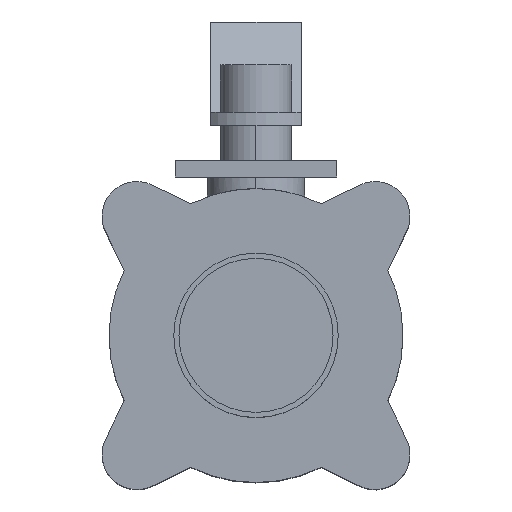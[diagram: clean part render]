
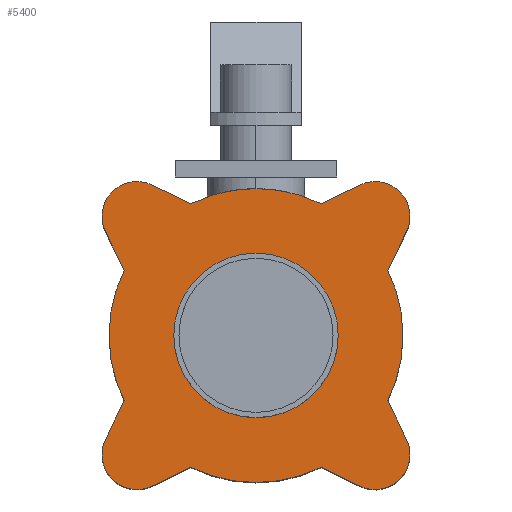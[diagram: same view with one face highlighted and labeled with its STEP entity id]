
A CAD part, top view. The second image highlights one B-rep face of the part: STEP entity #5400.
In plain terms, the highlighted planar face has unit normal (0, 0, 1) as drawn and (-1, 0, 0) by its records, which use the part's own axes.
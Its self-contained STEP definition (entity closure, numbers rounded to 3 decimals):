
#950=CARTESIAN_POINT('',(-75.5,0.,0.));
#960=DIRECTION('',(-1.,0.,0.));
#970=DIRECTION('',(0.,0.,1.));
#980=AXIS2_PLACEMENT_3D('',#950,#960,#970);
#990=CIRCLE('',#980,45.4);
#1000=CARTESIAN_POINT('',(-75.5,14.515,43.017));
#1010=VERTEX_POINT('',#1000);
#1020=CARTESIAN_POINT('',(-75.5,43.017,14.515));
#1030=VERTEX_POINT('',#1020);
#1040=EDGE_CURVE('',#1010,#1030,#990,.T.);
#1780=CARTESIAN_POINT('',(-75.5,14.515,43.017));
#1790=DIRECTION('',(0.,0.326,-0.946));
#1800=VECTOR('',#1790,1.);
#1810=LINE('',#1780,#1800);
#1820=CARTESIAN_POINT('',(-75.5,10.212,55.516));
#1830=VERTEX_POINT('',#1820);
#1840=EDGE_CURVE('',#1830,#1010,#1810,.T.);
#2090=CARTESIAN_POINT('',(-75.5,-43.017,14.515));
#2100=DIRECTION('',(0.,0.946,0.326));
#2110=VECTOR('',#2100,1.);
#2120=LINE('',#2090,#2110);
#2130=CARTESIAN_POINT('',(-75.5,-55.516,10.212));
#2140=VERTEX_POINT('',#2130);
#2150=CARTESIAN_POINT('',(-75.5,-43.017,14.515));
#2160=VERTEX_POINT('',#2150);
#2170=EDGE_CURVE('',#2140,#2160,#2120,.T.);
#2940=CARTESIAN_POINT('',(-75.5,-43.017,-14.515));
#2950=VERTEX_POINT('',#2940);
#2980=CARTESIAN_POINT('',(-75.5,-55.516,-10.212));
#2990=DIRECTION('',(0.,0.946,-0.326));
#3000=VECTOR('',#2990,1.);
#3010=LINE('',#2980,#3000);
#3020=CARTESIAN_POINT('',(-75.5,-55.516,-10.212));
#3030=VERTEX_POINT('',#3020);
#3040=EDGE_CURVE('',#3030,#2950,#3010,.T.);
#3330=CARTESIAN_POINT('',(-75.5,-10.212,55.516));
#3340=VERTEX_POINT('',#3330);
#3370=CARTESIAN_POINT('',(-75.5,0.,52.));
#3380=DIRECTION('',(-1.,0.,0.));
#3390=DIRECTION('',(0.,0.,1.));
#3400=AXIS2_PLACEMENT_3D('',#3370,#3380,#3390);
#3410=CIRCLE('',#3400,10.8);
#3420=EDGE_CURVE('',#3340,#1830,#3410,.T.);
#4250=CARTESIAN_POINT('',(-75.5,0.,-60.65)
);
#4260=DIRECTION('',(1.,0.,-0.));
#4270=DIRECTION('',(0.,0.,1.));
#4280=AXIS2_PLACEMENT_3D('',#4250,#4260,#4270);
#4290=PLANE('',#4280);
#4300=CARTESIAN_POINT('',(-75.5,10.212,-55.516));
#4310=DIRECTION('',(0.,0.326,0.946));
#4320=VECTOR('',#4310,1.);
#4330=LINE('',#4300,#4320);
#4340=CARTESIAN_POINT('',(-75.5,10.212,-55.516));
#4350=VERTEX_POINT('',#4340);
#4360=CARTESIAN_POINT('',(-75.5,14.515,-43.017));
#4370=VERTEX_POINT('',#4360);
#4380=EDGE_CURVE('',#4350,#4370,#4330,.T.);
#4390=ORIENTED_EDGE('',*,*,#4380,.F.);
#4400=CARTESIAN_POINT('',(-75.5,0.,0.));
#4410=DIRECTION('',(-1.,0.,0.));
#4420=DIRECTION('',(0.,0.,1.));
#4430=AXIS2_PLACEMENT_3D('',#4400,#4410,#4420);
#4440=CIRCLE('',#4430,45.4);
#4450=CARTESIAN_POINT('',(-75.5,43.017,-14.515));
#4460=VERTEX_POINT('',#4450);
#4470=EDGE_CURVE('',#4460,#4370,#4440,.T.);
#4480=ORIENTED_EDGE('',*,*,#4470,.T.);
#4490=CARTESIAN_POINT('',(-75.5,55.516,-10.212));
#4500=DIRECTION('',(0.,0.946,0.326));
#4510=VECTOR('',#4500,1.);
#4520=LINE('',#4490,#4510);
#4530=CARTESIAN_POINT('',(-75.5,55.516,-10.212));
#4540=VERTEX_POINT('',#4530);
#4550=EDGE_CURVE('',#4460,#4540,#4520,.T.);
#4560=ORIENTED_EDGE('',*,*,#4550,.F.);
#4570=CARTESIAN_POINT('',(-75.5,52.,0.));
#4580=DIRECTION('',(1.,0.,0.));
#4590=DIRECTION('',(0.,0.,-1.));
#4600=AXIS2_PLACEMENT_3D('',#4570,#4580,#4590);
#4610=CIRCLE('',#4600,10.8);
#4620=CARTESIAN_POINT('',(-75.5,55.516,10.212));
#4630=VERTEX_POINT('',#4620);
#4640=EDGE_CURVE('',#4540,#4630,#4610,.T.);
#4650=ORIENTED_EDGE('',*,*,#4640,.F.);
#4660=CARTESIAN_POINT('',(-75.5,55.516,10.212));
#4670=DIRECTION('',(0.,0.946,-0.326));
#4680=VECTOR('',#4670,1.);
#4690=LINE('',#4660,#4680);
#4700=EDGE_CURVE('',#1030,#4630,#4690,.T.);
#4710=ORIENTED_EDGE('',*,*,#4700,.T.);
#4720=ORIENTED_EDGE('',*,*,#1040,.T.);
#4730=ORIENTED_EDGE('',*,*,#1840,.T.);
#4740=ORIENTED_EDGE('',*,*,#3420,.T.);
#4750=CARTESIAN_POINT('',(-75.5,-10.212,55.516));
#4760=DIRECTION('',(0.,-0.326,-0.946));
#4770=VECTOR('',#4760,1.);
#4780=LINE('',#4750,#4770);
#4790=CARTESIAN_POINT('',(-75.5,-14.515,43.017));
#4800=VERTEX_POINT('',#4790);
#4810=EDGE_CURVE('',#3340,#4800,#4780,.T.);
#4820=ORIENTED_EDGE('',*,*,#4810,.F.);
#4830=CARTESIAN_POINT('',(-75.5,0.,0.));
#4840=DIRECTION('',(-1.,0.,0.));
#4850=DIRECTION('',(0.,0.,1.));
#4860=AXIS2_PLACEMENT_3D('',#4830,#4840,#4850);
#4870=CIRCLE('',#4860,45.4);
#4880=EDGE_CURVE('',#2160,#4800,#4870,.T.);
#4890=ORIENTED_EDGE('',*,*,#4880,.T.);
#4900=ORIENTED_EDGE('',*,*,#2170,.T.);
#4910=CARTESIAN_POINT('',(-75.5,-52.,0.));
#4920=DIRECTION('',(1.,0.,0.));
#4930=DIRECTION('',(0.,0.,-1.));
#4940=AXIS2_PLACEMENT_3D('',#4910,#4920,#4930);
#4950=CIRCLE('',#4940,10.8);
#4960=EDGE_CURVE('',#2140,#3030,#4950,.T.);
#4970=ORIENTED_EDGE('',*,*,#4960,.F.);
#4980=ORIENTED_EDGE('',*,*,#3040,.F.);
#4990=CARTESIAN_POINT('',(-75.5,0.,0.));
#5000=DIRECTION('',(-1.,0.,0.));
#5010=DIRECTION('',(0.,0.,1.));
#5020=AXIS2_PLACEMENT_3D('',#4990,#5000,#5010);
#5030=CIRCLE('',#5020,45.4);
#5040=CARTESIAN_POINT('',(-75.5,-14.515,-43.017));
#5050=VERTEX_POINT('',#5040);
#5060=EDGE_CURVE('',#5050,#2950,#5030,.T.);
#5070=ORIENTED_EDGE('',*,*,#5060,.T.);
#5080=CARTESIAN_POINT('',(-75.5,-10.212,-55.516));
#5090=DIRECTION('',(0.,0.326,-0.946));
#5100=VECTOR('',#5090,1.);
#5110=LINE('',#5080,#5100);
#5120=CARTESIAN_POINT('',(-75.5,-10.212,-55.516));
#5130=VERTEX_POINT('',#5120);
#5140=EDGE_CURVE('',#5050,#5130,#5110,.T.);
#5150=ORIENTED_EDGE('',*,*,#5140,.F.);
#5160=CARTESIAN_POINT('',(-75.5,0.,-52.));
#5170=DIRECTION('',(1.,0.,0.));
#5180=DIRECTION('',(0.,0.,-1.));
#5190=AXIS2_PLACEMENT_3D('',#5160,#5170,#5180);
#5200=CIRCLE('',#5190,10.8);
#5210=EDGE_CURVE('',#5130,#4350,#5200,.T.);
#5220=ORIENTED_EDGE('',*,*,#5210,.F.);
#5230=EDGE_LOOP('',(#5220,#5150,#5070,#4980,#4970,#4900,#4890,#4820,
#4740,#4730,#4720,#4710,#4650,#4560,#4480,#4390));
#5240=FACE_OUTER_BOUND('',#5230,.T.);
#5250=CARTESIAN_POINT('',(-75.5,0.,0.));
#5260=DIRECTION('',(-1.,0.,0.));
#5270=DIRECTION('',(0.,-0.707,0.707));
#5280=AXIS2_PLACEMENT_3D('',#5250,#5260,#5270);
#5290=CIRCLE('',#5280,25.4);
#5300=CARTESIAN_POINT('',(-75.5,17.961,-17.961));
#5310=VERTEX_POINT('',#5300);
#5320=CARTESIAN_POINT('',(-75.5,-17.961,17.961));
#5330=VERTEX_POINT('',#5320);
#5340=EDGE_CURVE('',#5310,#5330,#5290,.T.);
#5350=ORIENTED_EDGE('',*,*,#5340,.F.);
#5360=EDGE_CURVE('',#5330,#5310,#5290,.T.);
#5370=ORIENTED_EDGE('',*,*,#5360,.F.);
#5380=EDGE_LOOP('',(#5370,#5350));
#5390=FACE_BOUND('',#5380,.T.);
#5400=ADVANCED_FACE('',(#5240,#5390),#4290,.F.);
